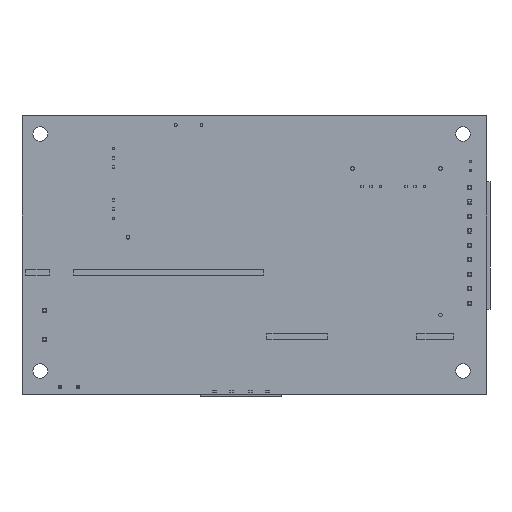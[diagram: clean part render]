
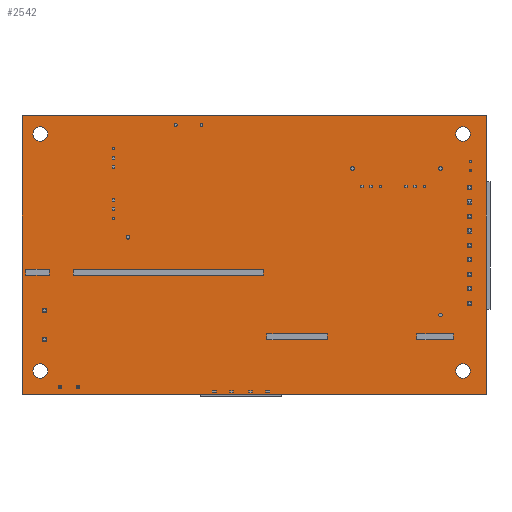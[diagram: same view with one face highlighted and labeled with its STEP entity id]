
A CAD part, front view. The second image highlights one B-rep face of the part: STEP entity #2542.
In plain terms, the highlighted planar face has unit normal (0, -1, 0).
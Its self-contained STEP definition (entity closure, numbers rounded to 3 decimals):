
#16 = CARTESIAN_POINT ( 'NONE',  ( 63.5, 0., 38.1 ) ) ;
#56 = VECTOR ( 'NONE', #9589, 1000. ) ;
#390 = ORIENTED_EDGE ( 'NONE', *, *, #27516, .T. ) ;
#535 = VERTEX_POINT ( 'NONE', #1971 ) ;
#919 = VECTOR ( 'NONE', #21611, 1000. ) ;
#1179 = CARTESIAN_POINT ( 'NONE',  ( -63.5, 0., 38.1 ) ) ;
#1511 = CARTESIAN_POINT ( 'NONE',  ( -58.5, 0., 33.1 ) ) ;
#1655 = LINE ( 'NONE', #1179, #8837 ) ;
#1680 = DIRECTION ( 'NONE',  ( 0., 0., 1. ) ) ;
#1725 = CIRCLE ( 'NONE', #32408, 2. ) ;
#1971 = CARTESIAN_POINT ( 'NONE',  ( -63.5, 0., -38.1 ) ) ;
#2032 = ORIENTED_EDGE ( 'NONE', *, *, #3338, .F. ) ;
#2126 = DIRECTION ( 'NONE',  ( 0., 0., 1. ) ) ;
#2414 = EDGE_CURVE ( 'NONE', #11628, #33217, #1725, .T. ) ;
#2516 = EDGE_CURVE ( 'NONE', #30088, #23611, #32543, .T. ) ;
#2542 = ADVANCED_FACE ( 'NONE', ( #3847, #4669, #31724, #24508, #18134 ), #27663, .T. ) ;
#3325 = CARTESIAN_POINT ( 'NONE',  ( -58.5, 0., 33.1 ) ) ;
#3338 = EDGE_CURVE ( 'NONE', #17080, #7085, #1655, .T. ) ;
#3575 = EDGE_LOOP ( 'NONE', ( #29435, #33445 ) ) ;
#3629 = EDGE_CURVE ( 'NONE', #34675, #24080, #21892, .T. ) ;
#3847 = FACE_BOUND ( 'NONE', #9798, .T. ) ;
#4231 = DIRECTION ( 'NONE',  ( 0., 0., 1. ) ) ;
#4234 = AXIS2_PLACEMENT_3D ( 'NONE', #29474, #13253, #32193 ) ;
#4669 = FACE_BOUND ( 'NONE', #7770, .T. ) ;
#5619 = AXIS2_PLACEMENT_3D ( 'NONE', #8280, #27186, #10974 ) ;
#5931 = CARTESIAN_POINT ( 'NONE',  ( 57.1, 0., 35.1 ) ) ;
#6025 = DIRECTION ( 'NONE',  ( 0., 0., 1. ) ) ;
#6443 = ORIENTED_EDGE ( 'NONE', *, *, #10606, .F. ) ;
#6454 = EDGE_CURVE ( 'NONE', #22402, #21483, #18326, .T. ) ;
#6797 = ORIENTED_EDGE ( 'NONE', *, *, #26866, .F. ) ;
#6882 = CARTESIAN_POINT ( 'NONE',  ( -63.5, 0., -38.1 ) ) ;
#7085 = VERTEX_POINT ( 'NONE', #17209 ) ;
#7128 = CIRCLE ( 'NONE', #5619, 2. ) ;
#7284 = ORIENTED_EDGE ( 'NONE', *, *, #23696, .T. ) ;
#7554 = CIRCLE ( 'NONE', #14314, 2. ) ;
#7770 = EDGE_LOOP ( 'NONE', ( #24792, #15966 ) ) ;
#7806 = ORIENTED_EDGE ( 'NONE', *, *, #19289, .F. ) ;
#8280 = CARTESIAN_POINT ( 'NONE',  ( 57.1, 0., -31.7 ) ) ;
#8376 = CARTESIAN_POINT ( 'NONE',  ( -58.5, 0., 35.1 ) ) ;
#8637 = CARTESIAN_POINT ( 'NONE',  ( -58.5, 0., -29.7 ) ) ;
#8654 = DIRECTION ( 'NONE',  ( 0., 1., 0. ) ) ;
#8746 = CARTESIAN_POINT ( 'NONE',  ( 0., 0., 0. ) ) ;
#8837 = VECTOR ( 'NONE', #20047, 1000. ) ;
#9589 = DIRECTION ( 'NONE',  ( -1., 0., 0. ) ) ;
#9798 = EDGE_LOOP ( 'NONE', ( #27009, #7284 ) ) ;
#9906 = DIRECTION ( 'NONE',  ( 0., 1., 0. ) ) ;
#10606 = EDGE_CURVE ( 'NONE', #26258, #535, #14383, .T. ) ;
#10974 = DIRECTION ( 'NONE',  ( 0., 0., 1. ) ) ;
#11628 = VERTEX_POINT ( 'NONE', #5931 ) ;
#13253 = DIRECTION ( 'NONE',  ( 0., 1., 0. ) ) ;
#13578 = AXIS2_PLACEMENT_3D ( 'NONE', #34053, #17807, #1680 ) ;
#13676 = VECTOR ( 'NONE', #17435, 1000. ) ;
#14127 = DIRECTION ( 'NONE',  ( 0., 0., -1. ) ) ;
#14314 = AXIS2_PLACEMENT_3D ( 'NONE', #24820, #8654, #27569 ) ;
#14383 = LINE ( 'NONE', #6882, #56 ) ;
#14717 = CARTESIAN_POINT ( 'NONE',  ( -63.5, 0., 38.1 ) ) ;
#15227 = LINE ( 'NONE', #16, #919 ) ;
#15966 = ORIENTED_EDGE ( 'NONE', *, *, #6454, .T. ) ;
#17080 = VERTEX_POINT ( 'NONE', #21797 ) ;
#17209 = CARTESIAN_POINT ( 'NONE',  ( 63.5, 0., 38.1 ) ) ;
#17435 = DIRECTION ( 'NONE',  ( 0., 0., 1. ) ) ;
#17807 = DIRECTION ( 'NONE',  ( 0., 1., 0. ) ) ;
#18134 = FACE_OUTER_BOUND ( 'NONE', #30860, .T. ) ;
#18256 = DIRECTION ( 'NONE',  ( 0., 1., 0. ) ) ;
#18326 = CIRCLE ( 'NONE', #23496, 2. ) ;
#19289 = EDGE_CURVE ( 'NONE', #7085, #26258, #15227, .T. ) ;
#20047 = DIRECTION ( 'NONE',  ( 1., 0., 0. ) ) ;
#20064 = EDGE_LOOP ( 'NONE', ( #22592, #390 ) ) ;
#20233 = CARTESIAN_POINT ( 'NONE',  ( 63.5, 0., -38.1 ) ) ;
#20308 = CARTESIAN_POINT ( 'NONE',  ( 57.1, 0., -29.7 ) ) ;
#20382 = DIRECTION ( 'NONE',  ( 0., 1., 0. ) ) ;
#21483 = VERTEX_POINT ( 'NONE', #20308 ) ;
#21529 = CARTESIAN_POINT ( 'NONE',  ( 57.1, 0., -33.7 ) ) ;
#21611 = DIRECTION ( 'NONE',  ( 0., 0., -1. ) ) ;
#21672 = CIRCLE ( 'NONE', #13578, 2. ) ;
#21797 = CARTESIAN_POINT ( 'NONE',  ( -63.5, 0., 38.1 ) ) ;
#21890 = AXIS2_PLACEMENT_3D ( 'NONE', #1511, #20382, #4231 ) ;
#21892 = CIRCLE ( 'NONE', #4234, 2. ) ;
#22188 = DIRECTION ( 'NONE',  ( 0., 1., 0. ) ) ;
#22402 = VERTEX_POINT ( 'NONE', #21529 ) ;
#22592 = ORIENTED_EDGE ( 'NONE', *, *, #2516, .T. ) ;
#22977 = CIRCLE ( 'NONE', #21890, 2. ) ;
#23496 = AXIS2_PLACEMENT_3D ( 'NONE', #26107, #9906, #28833 ) ;
#23611 = VERTEX_POINT ( 'NONE', #32626 ) ;
#23696 = EDGE_CURVE ( 'NONE', #33217, #11628, #7554, .T. ) ;
#23734 = CARTESIAN_POINT ( 'NONE',  ( -58.5, 0., -33.7 ) ) ;
#24080 = VERTEX_POINT ( 'NONE', #23734 ) ;
#24508 = FACE_BOUND ( 'NONE', #20064, .T. ) ;
#24792 = ORIENTED_EDGE ( 'NONE', *, *, #34594, .T. ) ;
#24820 = CARTESIAN_POINT ( 'NONE',  ( 57.1, 0., 33.1 ) ) ;
#26107 = CARTESIAN_POINT ( 'NONE',  ( 57.1, 0., -31.7 ) ) ;
#26258 = VERTEX_POINT ( 'NONE', #20233 ) ;
#26866 = EDGE_CURVE ( 'NONE', #535, #17080, #28138, .T. ) ;
#27009 = ORIENTED_EDGE ( 'NONE', *, *, #2414, .T. ) ;
#27154 = CARTESIAN_POINT ( 'NONE',  ( 57.1, 0., 31.1 ) ) ;
#27186 = DIRECTION ( 'NONE',  ( 0., 1., 0. ) ) ;
#27516 = EDGE_CURVE ( 'NONE', #23611, #30088, #22977, .T. ) ;
#27569 = DIRECTION ( 'NONE',  ( 0., 0., 1. ) ) ;
#27663 = PLANE ( 'NONE',  #34727 ) ;
#28138 = LINE ( 'NONE', #14717, #13676 ) ;
#28833 = DIRECTION ( 'NONE',  ( 0., 0., 1. ) ) ;
#29295 = AXIS2_PLACEMENT_3D ( 'NONE', #3325, #22188, #6025 ) ;
#29435 = ORIENTED_EDGE ( 'NONE', *, *, #3629, .T. ) ;
#29474 = CARTESIAN_POINT ( 'NONE',  ( -58.5, 0., -31.7 ) ) ;
#30088 = VERTEX_POINT ( 'NONE', #8376 ) ;
#30374 = DIRECTION ( 'NONE',  ( 0., -1., 0. ) ) ;
#30860 = EDGE_LOOP ( 'NONE', ( #6797, #6443, #7806, #2032 ) ) ;
#31724 = FACE_BOUND ( 'NONE', #3575, .T. ) ;
#31743 = EDGE_CURVE ( 'NONE', #24080, #34675, #21672, .T. ) ;
#32193 = DIRECTION ( 'NONE',  ( 0., 0., 1. ) ) ;
#32408 = AXIS2_PLACEMENT_3D ( 'NONE', #34498, #18256, #2126 ) ;
#32543 = CIRCLE ( 'NONE', #29295, 2. ) ;
#32626 = CARTESIAN_POINT ( 'NONE',  ( -58.5, 0., 31.1 ) ) ;
#33217 = VERTEX_POINT ( 'NONE', #27154 ) ;
#33445 = ORIENTED_EDGE ( 'NONE', *, *, #31743, .T. ) ;
#34053 = CARTESIAN_POINT ( 'NONE',  ( -58.5, 0., -31.7 ) ) ;
#34498 = CARTESIAN_POINT ( 'NONE',  ( 57.1, 0., 33.1 ) ) ;
#34594 = EDGE_CURVE ( 'NONE', #21483, #22402, #7128, .T. ) ;
#34675 = VERTEX_POINT ( 'NONE', #8637 ) ;
#34727 = AXIS2_PLACEMENT_3D ( 'NONE', #8746, #30374, #14127 ) ;
